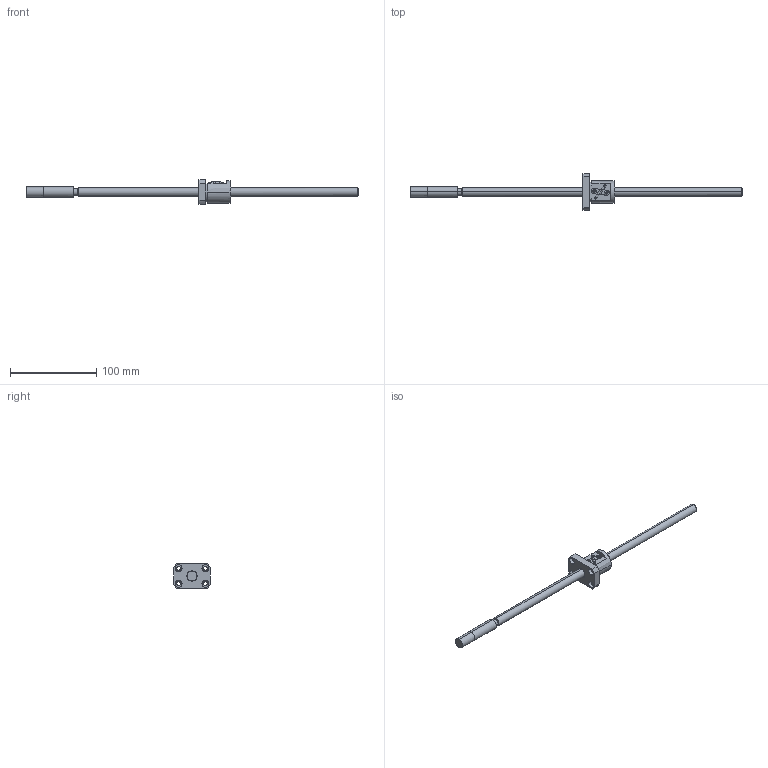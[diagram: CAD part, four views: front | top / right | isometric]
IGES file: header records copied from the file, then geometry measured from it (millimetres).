
Global section: file name: No Iges File Name specified; native system: AutoDesk Inventor R10; preprocessor: AutoDesk Inventor Iges Exporter R10; author: No Author specified; organization: No Organization specified; date: 20101224.135912; units: millimetre
Bounding box: 385 x 42 x 28 mm (x, y, z)
Surface area: 20304.5 mm2 (no closed solid volume)
Topology: 0 solids, 0 shells, 135 faces, 996 edges, 996 vertices
Faces by surface type: bspline 135
